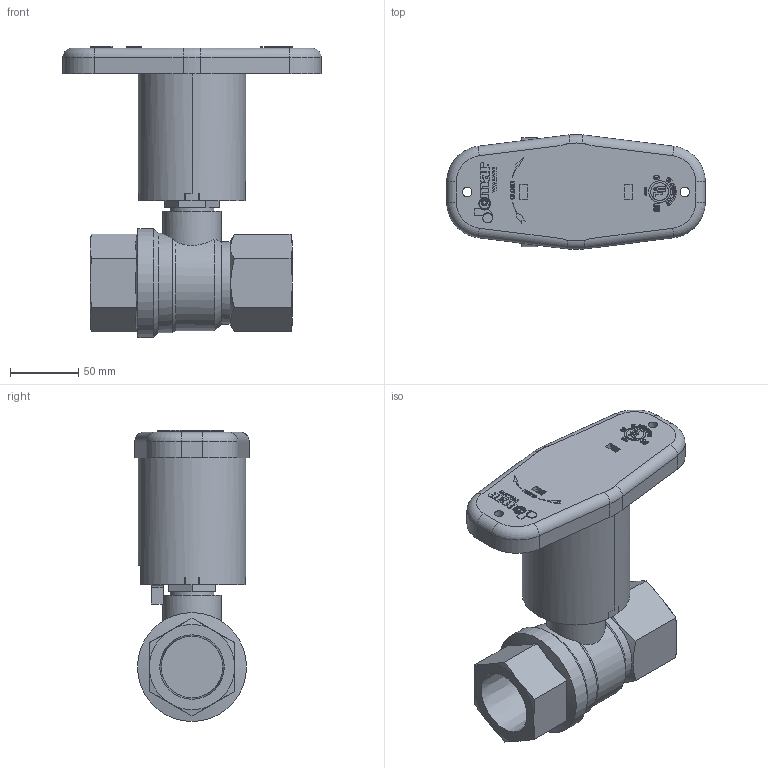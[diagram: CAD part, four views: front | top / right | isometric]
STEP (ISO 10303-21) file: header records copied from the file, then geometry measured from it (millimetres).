
FILE_DESCRIPTION(('Open CASCADE Model'),'2;1');
FILE_NAME('Open CASCADE Shape Model','2021-10-12T08:07:50',('Author'),( 'Open CASCADE'),'Open CASCADE STEP processor 7.3','Open CASCADE 7.3' ,'Unknown');
FILE_SCHEMA(('AUTOMOTIVE_DESIGN { 1 0 10303 214 1 1 1 1 }'));
Length unit declared in the file: millimetre
Products named in the file (103): Open CASCADE STEP translator 7.3 1; Open CASCADE STEP translator 7.3 1.1; Open CASCADE STEP translator 7.3 1.2; Open CASCADE STEP translator 7.3 1.3; Open CASCADE STEP translator 7.3 1.4; Open CASCADE STEP translator 7.3 1.5; Open CASCADE STEP translator 7.3 1.6; Open CASCADE STEP translator 7.3 1.7; Open CASCADE STEP translator 7.3 1.8; Open CASCADE STEP translator 7.3 1.9; Open CASCADE STEP translator 7.3 1.10; Open CASCADE STEP translator 7.3 1.11; Open CASCADE STEP translator 7.3 1.12; Open CASCADE STEP translator 7.3 1.13; Open CASCADE STEP translator 7.3 1.14; Open CASCADE STEP translator 7.3 1.15; Open CASCADE STEP translator 7.3 1.16; Open CASCADE STEP translator 7.3 1.17; Open CASCADE STEP translator 7.3 1.18; Open CASCADE STEP translator 7.3 1.19; Open CASCADE STEP translator 7.3 1.20; Open CASCADE STEP translator 7.3 1.21; Open CASCADE STEP translator 7.3 1.22; Open CASCADE STEP translator 7.3 1.23; Open CASCADE STEP translator 7.3 1.24; Open CASCADE STEP translator 7.3 1.25; Open CASCADE STEP translator 7.3 1.26; Open CASCADE STEP translator 7.3 1.27; Open CASCADE STEP translator 7.3 1.28; Open CASCADE STEP translator 7.3 1.28.1; Open CASCADE STEP translator 7.3 1.28.2; Open CASCADE STEP translator 7.3 1.28.3; Open CASCADE STEP translator 7.3 1.28.4; Open CASCADE STEP translator 7.3 1.28.5; Open CASCADE STEP translator 7.3 1.28.6; Open CASCADE STEP translator 7.3 1.28.7; Open CASCADE STEP translator 7.3 1.28.8; Open CASCADE STEP translator 7.3 1.28.9; Open CASCADE STEP translator 7.3 1.28.10; Open CASCADE STEP translator 7.3 1.28.11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
Assembly tree (102 placements, depth 3):
  Open CASCADE STEP translator 7.3 1
    Open CASCADE STEP translator 7.3 1.1
    Open CASCADE STEP translator 7.3 1.2
    Open CASCADE STEP translator 7.3 1.3
    Open CASCADE STEP translator 7.3 1.4
    Open CASCADE STEP translator 7.3 1.5
    Open CASCADE STEP translator 7.3 1.6
    Open CASCADE STEP translator 7.3 1.7
    Open CASCADE STEP translator 7.3 1.8
    Open CASCADE STEP translator 7.3 1.9
    Open CASCADE STEP translator 7.3 1.10
    Open CASCADE STEP translator 7.3 1.11
    Open CASCADE STEP translator 7.3 1.12
    Open CASCADE STEP translator 7.3 1.13
    Open CASCADE STEP translator 7.3 1.14
    Open CASCADE STEP translator 7.3 1.15
    Open CASCADE STEP translator 7.3 1.16
    Open CASCADE STEP translator 7.3 1.17
    Open CASCADE STEP translator 7.3 1.18
    Open CASCADE STEP translator 7.3 1.19
    Open CASCADE STEP translator 7.3 1.20
    Open CASCADE STEP translator 7.3 1.21
    Open CASCADE STEP translator 7.3 1.22
    Open CASCADE STEP translator 7.3 1.23
    Open CASCADE STEP translator 7.3 1.24
    Open CASCADE STEP translator 7.3 1.25
    Open CASCADE STEP translator 7.3 1.26
    Open CASCADE STEP translator 7.3 1.27
    Open CASCADE STEP translator 7.3 1.28
      Open CASCADE STEP translator 7.3 1.28.1
      Open CASCADE STEP translator 7.3 1.28.2
      Open CASCADE STEP translator 7.3 1.28.3
      Open CASCADE STEP translator 7.3 1.28.4
      Open CASCADE STEP translator 7.3 1.28.5
      Open CASCADE STEP translator 7.3 1.28.6
      Open CASCADE STEP translator 7.3 1.28.7
      Open CASCADE STEP translator 7.3 1.28.8
      Open CASCADE STEP translator 7.3 1.28.9
      Open CASCADE STEP translator 7.3 1.28.10
      Open CASCADE STEP translator 7.3 1.28.11
      Open CASCADE STEP translator 7.3 1.28.12
      Open CASCADE STEP translator 7.3 1.28.13
      Open CASCADE STEP translator 7.3 1.28.14
      Open CASCADE STEP translator 7.3 1.28.15
      Open CASCADE STEP translator 7.3 1.28.16
      Open CASCADE STEP translator 7.3 1.28.17
      Open CASCADE STEP translator 7.3 1.28.18
      Open CASCADE STEP translator 7.3 1.28.19
      Open CASCADE STEP translator 7.3 1.28.20
      Open CASCADE STEP translator 7.3 1.28.21
      Open CASCADE STEP translator 7.3 1.28.22
      Open CASCADE STEP translator 7.3 1.28.23
      Open CASCADE STEP translator 7.3 1.28.24
      Open CASCADE STEP translator 7.3 1.28.25
      Open CASCADE STEP translator 7.3 1.28.26
      Open CASCADE STEP translator 7.3 1.28.27
      Open CASCADE STEP translator 7.3 1.28.28
      Open CASCADE STEP translator 7.3 1.28.29
      Open CASCADE STEP translator 7.3 1.28.30
      Open CASCADE STEP translator 7.3 1.28.31
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Bounding box: 189 x 83.92 x 212.74 mm (x, y, z)
Volume: 311810.3 mm3; surface area: 145274 mm2
Topology: 43 solids, 101 shells, 2654 faces, 7768 edges, 5254 vertices
Faces by surface type: plane 2520, cylinder 103, cone 19, extrusion 6, torus 6
Full cylindrical faces by diameter (mm): 0.829 x1, 0.969 x1, 2.493 x1, 3.5 x1, 6.966 x1, 7 x2, 21.471 x1, 22.983 x1, 31.995 x1, 43.063 x1, 60.3 x1, 62.23 x1, 64.897 x1, 72.577 x1, 79.654 x1
Entity records: 190498 total; most frequent: CARTESIAN_POINT 34775, DIRECTION 28472, VECTOR 22262, LINE 22256, ORIENTED_EDGE 15270, PCURVE 15270, DEFINITIONAL_REPRESENTATION 15270, EDGE_CURVE 7768
